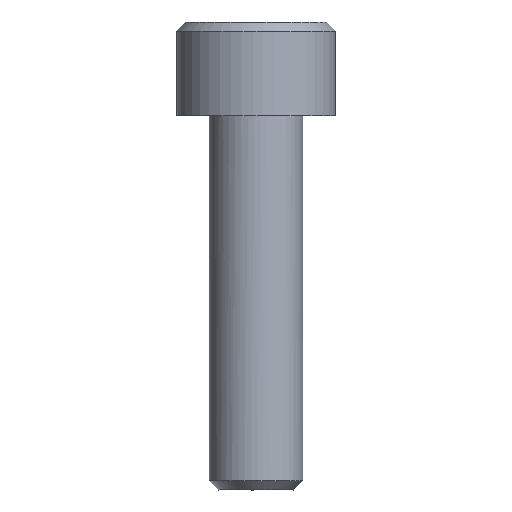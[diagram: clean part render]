
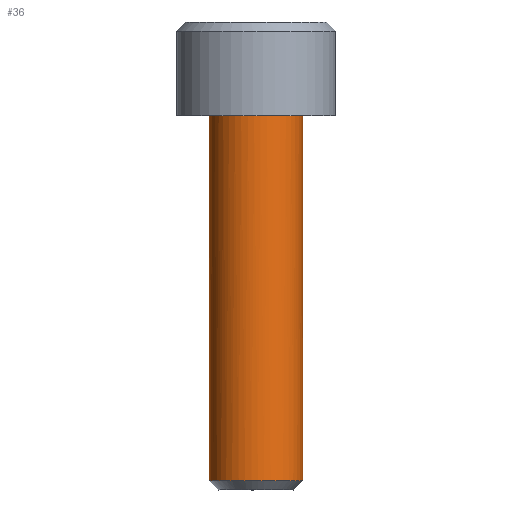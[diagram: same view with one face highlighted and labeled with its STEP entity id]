
A CAD part, left-side view. The second image highlights one B-rep face of the part: STEP entity #36.
In plain terms, the highlighted free-form (B-spline) face has degree [2, 1] with [9, 2] control points.
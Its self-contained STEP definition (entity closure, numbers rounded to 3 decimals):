
#36=ADVANCED_FACE('',(#61),#755,.T.);
#61=FACE_OUTER_BOUND('',#86,.T.);
#86=EDGE_LOOP('',(#119,#120,#121,#122));
#119=ORIENTED_EDGE('',*,*,#532,.T.);
#120=ORIENTED_EDGE('',*,*,#533,.T.);
#121=ORIENTED_EDGE('',*,*,#534,.T.);
#122=ORIENTED_EDGE('',*,*,#535,.T.);
#222=(
BOUNDED_CURVE()
B_SPLINE_CURVE(2,(#1121,#1122,#1123,#1124,#1125),.UNSPECIFIED.,.F.,.F.)
B_SPLINE_CURVE_WITH_KNOTS((3,2,3),(0.,3.927,7.854),
 .UNSPECIFIED.)
CURVE()
GEOMETRIC_REPRESENTATION_ITEM()
RATIONAL_B_SPLINE_CURVE((1.,0.707,1.,0.707,1.))
REPRESENTATION_ITEM('')
);
#223=(
BOUNDED_CURVE()
B_SPLINE_CURVE(2,(#1132,#1133,#1134,#1135,#1136),.UNSPECIFIED.,.F.,.F.)
B_SPLINE_CURVE_WITH_KNOTS((3,2,3),(-7.854,-3.927,0.),
 .UNSPECIFIED.)
CURVE()
GEOMETRIC_REPRESENTATION_ITEM()
RATIONAL_B_SPLINE_CURVE((1.,0.707,1.,0.707,1.))
REPRESENTATION_ITEM('')
);
#250=(
BOUNDED_CURVE()
B_SPLINE_CURVE(2,(#1425,#1426,#1427,#1428,#1429),.UNSPECIFIED.,.F.,.F.)
B_SPLINE_CURVE_WITH_KNOTS((3,2,3),(-7.854,-3.927,0.),
 .UNSPECIFIED.)
CURVE()
GEOMETRIC_REPRESENTATION_ITEM()
RATIONAL_B_SPLINE_CURVE((1.,0.707,1.,0.707,1.))
REPRESENTATION_ITEM('')
);
#263=PCURVE('',#755,#371);
#264=PCURVE('',#755,#372);
#265=PCURVE('',#755,#373);
#266=PCURVE('',#755,#374);
#270=PCURVE('',#756,#378);
#339=PCURVE('',#760,#447);
#341=PCURVE('',#760,#449);
#346=PCURVE('',#751,#454);
#371=DEFINITIONAL_REPRESENTATION('',(#592),#1481);
#372=DEFINITIONAL_REPRESENTATION('',(#593),#1481);
#373=DEFINITIONAL_REPRESENTATION('',(#595),#1481);
#374=DEFINITIONAL_REPRESENTATION('',(#596),#1481);
#378=DEFINITIONAL_REPRESENTATION('',(#602),#1481);
#447=DEFINITIONAL_REPRESENTATION('',(#687),#1481);
#449=DEFINITIONAL_REPRESENTATION('',(#689),#1481);
#454=DEFINITIONAL_REPRESENTATION('',(#250),#1481);
#478=SURFACE_CURVE('',#591,(#263,#339),.PCURVE_S1.);
#479=SURFACE_CURVE('',#222,(#264,#270),.PCURVE_S1.);
#480=SURFACE_CURVE('',#594,(#265,#341),.PCURVE_S1.);
#481=SURFACE_CURVE('',#223,(#266,#346),.PCURVE_S1.);
#532=EDGE_CURVE('',#711,#712,#478,.T.);
#533=EDGE_CURVE('',#712,#713,#479,.T.);
#534=EDGE_CURVE('',#713,#714,#480,.T.);
#535=EDGE_CURVE('',#714,#711,#481,.T.);
#591=B_SPLINE_CURVE_WITH_KNOTS('',1,(#1117,#1118),.UNSPECIFIED.,.F.,.F.,
(2,2),(-19.51,0.),.UNSPECIFIED.);
#592=B_SPLINE_CURVE_WITH_KNOTS('',1,(#1119,#1120),.UNSPECIFIED.,.F.,.F.,
(2,2),(-19.51,0.),.UNSPECIFIED.);
#593=B_SPLINE_CURVE_WITH_KNOTS('',1,(#1126,#1127),.UNSPECIFIED.,.F.,.F.,
(2,2),(0.,7.854),.UNSPECIFIED.);
#594=B_SPLINE_CURVE_WITH_KNOTS('',1,(#1128,#1129),.UNSPECIFIED.,.F.,.F.,
(2,2),(-19.51,0.),.UNSPECIFIED.);
#595=B_SPLINE_CURVE_WITH_KNOTS('',1,(#1130,#1131),.UNSPECIFIED.,.F.,.F.,
(2,2),(-19.51,0.),.UNSPECIFIED.);
#596=B_SPLINE_CURVE_WITH_KNOTS('',1,(#1137,#1138),.UNSPECIFIED.,.F.,.F.,
(2,2),(-7.854,0.),.UNSPECIFIED.);
#602=B_SPLINE_CURVE_WITH_KNOTS('',1,(#1154,#1155),.UNSPECIFIED.,.F.,.F.,
(2,2),(0.,7.854),.UNSPECIFIED.);
#687=B_SPLINE_CURVE_WITH_KNOTS('',1,(#1392,#1393),.UNSPECIFIED.,.F.,.F.,
(2,2),(-19.51,0.),.UNSPECIFIED.);
#689=B_SPLINE_CURVE_WITH_KNOTS('',1,(#1401,#1402),.UNSPECIFIED.,.F.,.F.,
(2,2),(-19.51,0.),.UNSPECIFIED.);
#711=VERTEX_POINT('',#1051);
#712=VERTEX_POINT('',#1052);
#713=VERTEX_POINT('',#1053);
#714=VERTEX_POINT('',#1054);
#751=PLANE('',#818);
#755=(
BOUNDED_SURFACE()
B_SPLINE_SURFACE(2,1,((#886,#887),(#888,#889),(#890,#891),(#892,#893),(#894,
#895),(#896,#897),(#898,#899),(#900,#901),(#902,#903)),.UNSPECIFIED.,.T.,
 .F.,.F.)
B_SPLINE_SURFACE_WITH_KNOTS((3,2,2,2,3),(2,2),(0.,1.571,3.142,
4.712,6.283),(0.,23.414),.UNSPECIFIED.)
GEOMETRIC_REPRESENTATION_ITEM()
RATIONAL_B_SPLINE_SURFACE(((1.,1.),(0.707,0.707),
(1.,1.),(0.707,0.707),(1.,1.),(0.707,
0.707),(1.,1.),(0.707,0.707),(1.,1.)))
REPRESENTATION_ITEM('')
SURFACE()
);
#756=(
BOUNDED_SURFACE()
B_SPLINE_SURFACE(2,1,((#904,#905),(#906,#907),(#908,#909),(#910,#911),(#912,
#913),(#914,#915),(#916,#917),(#918,#919),(#920,#921)),.UNSPECIFIED.,.T.,
 .F.,.F.)
B_SPLINE_SURFACE_WITH_KNOTS((3,2,2,2,3),(2,2),(0.,1.571,3.142,
4.712,6.283),(0.,3.891),.UNSPECIFIED.)
GEOMETRIC_REPRESENTATION_ITEM()
RATIONAL_B_SPLINE_SURFACE(((1.,1.),(0.707,0.707),
(1.,1.),(0.707,0.707),(1.,1.),(0.707,
0.707),(1.,1.),(0.707,0.707),(1.,1.)))
REPRESENTATION_ITEM('')
SURFACE()
);
#760=(
BOUNDED_SURFACE()
B_SPLINE_SURFACE(2,1,((#989,#990),(#991,#992),(#993,#994),(#995,#996),(#997,
#998),(#999,#1000),(#1001,#1002),(#1003,#1004),(#1005,#1006)),
 .UNSPECIFIED.,.T.,.F.,.F.)
B_SPLINE_SURFACE_WITH_KNOTS((3,2,2,2,3),(2,2),(0.,1.571,3.142,
4.712,6.283),(0.,23.414),.UNSPECIFIED.)
GEOMETRIC_REPRESENTATION_ITEM()
RATIONAL_B_SPLINE_SURFACE(((1.,1.),(0.707,0.707),
(1.,1.),(0.707,0.707),(1.,1.),(0.707,
0.707),(1.,1.),(0.707,0.707),(1.,1.)))
REPRESENTATION_ITEM('')
SURFACE()
);
#818=AXIS2_PLACEMENT_3D('',#1007,#840,$);
#840=DIRECTION('',(1.,0.,0.));
#886=CARTESIAN_POINT('',(-1.952,0.,2.5));
#887=CARTESIAN_POINT('',(21.462,0.,2.5));
#888=CARTESIAN_POINT('',(-1.952,-2.5,2.5));
#889=CARTESIAN_POINT('',(21.462,-2.5,2.5));
#890=CARTESIAN_POINT('',(-1.952,-2.5,0.));
#891=CARTESIAN_POINT('',(21.462,-2.5,0.));
#892=CARTESIAN_POINT('',(-1.952,-2.5,-2.5));
#893=CARTESIAN_POINT('',(21.462,-2.5,-2.5));
#894=CARTESIAN_POINT('',(-1.952,0.,-2.5));
#895=CARTESIAN_POINT('',(21.462,0.,-2.5));
#896=CARTESIAN_POINT('',(-1.952,2.5,-2.5));
#897=CARTESIAN_POINT('',(21.462,2.5,-2.5));
#898=CARTESIAN_POINT('',(-1.952,2.5,0.));
#899=CARTESIAN_POINT('',(21.462,2.5,0.));
#900=CARTESIAN_POINT('',(-1.952,2.5,2.5));
#901=CARTESIAN_POINT('',(21.462,2.5,2.5));
#902=CARTESIAN_POINT('',(-1.952,0.,2.5));
#903=CARTESIAN_POINT('',(21.462,0.,2.5));
#904=CARTESIAN_POINT('',(22.01,0.,0.));
#905=CARTESIAN_POINT('',(19.258,0.,2.751));
#906=CARTESIAN_POINT('',(22.01,0.,0.));
#907=CARTESIAN_POINT('',(19.258,2.751,2.751));
#908=CARTESIAN_POINT('',(22.01,0.,0.));
#909=CARTESIAN_POINT('',(19.258,2.751,0.));
#910=CARTESIAN_POINT('',(22.01,0.,0.));
#911=CARTESIAN_POINT('',(19.258,2.751,-2.751));
#912=CARTESIAN_POINT('',(22.01,0.,0.));
#913=CARTESIAN_POINT('',(19.258,0.,-2.751));
#914=CARTESIAN_POINT('',(22.01,0.,0.));
#915=CARTESIAN_POINT('',(19.258,-2.751,-2.751));
#916=CARTESIAN_POINT('',(22.01,0.,0.));
#917=CARTESIAN_POINT('',(19.258,-2.751,0.));
#918=CARTESIAN_POINT('',(22.01,0.,0.));
#919=CARTESIAN_POINT('',(19.258,-2.751,2.751));
#920=CARTESIAN_POINT('',(22.01,0.,0.));
#921=CARTESIAN_POINT('',(19.258,0.,2.751));
#989=CARTESIAN_POINT('',(-1.952,0.,-2.5));
#990=CARTESIAN_POINT('',(21.462,0.,-2.5));
#991=CARTESIAN_POINT('',(-1.952,2.5,-2.5));
#992=CARTESIAN_POINT('',(21.462,2.5,-2.5));
#993=CARTESIAN_POINT('',(-1.952,2.5,0.));
#994=CARTESIAN_POINT('',(21.462,2.5,0.));
#995=CARTESIAN_POINT('',(-1.952,2.5,2.5));
#996=CARTESIAN_POINT('',(21.462,2.5,2.5));
#997=CARTESIAN_POINT('',(-1.952,0.,2.5));
#998=CARTESIAN_POINT('',(21.462,0.,2.5));
#999=CARTESIAN_POINT('',(-1.952,-2.5,2.5));
#1000=CARTESIAN_POINT('',(21.462,-2.5,2.5));
#1001=CARTESIAN_POINT('',(-1.952,-2.5,0.));
#1002=CARTESIAN_POINT('',(21.462,-2.5,0.));
#1003=CARTESIAN_POINT('',(-1.952,-2.5,-2.5));
#1004=CARTESIAN_POINT('',(21.462,-2.5,-2.5));
#1005=CARTESIAN_POINT('',(-1.952,0.,-2.5));
#1006=CARTESIAN_POINT('',(21.462,0.,-2.5));
#1007=CARTESIAN_POINT('',(0.,5.101,5.101));
#1051=CARTESIAN_POINT('',(0.,2.5,0.));
#1052=CARTESIAN_POINT('',(19.51,2.5,0.));
#1053=CARTESIAN_POINT('',(19.51,-2.5,0.));
#1054=CARTESIAN_POINT('',(0.,-2.5,0.));
#1117=CARTESIAN_POINT('',(0.,2.5,0.));
#1118=CARTESIAN_POINT('',(19.51,2.5,0.));
#1119=CARTESIAN_POINT('',(4.712,1.952));
#1120=CARTESIAN_POINT('',(4.712,21.462));
#1121=CARTESIAN_POINT('',(19.51,2.5,0.));
#1122=CARTESIAN_POINT('',(19.51,2.5,-2.5));
#1123=CARTESIAN_POINT('',(19.51,0.,-2.5));
#1124=CARTESIAN_POINT('',(19.51,-2.5,-2.5));
#1125=CARTESIAN_POINT('',(19.51,-2.5,0.));
#1126=CARTESIAN_POINT('',(4.712,21.462));
#1127=CARTESIAN_POINT('',(1.571,21.462));
#1128=CARTESIAN_POINT('',(19.51,-2.5,0.));
#1129=CARTESIAN_POINT('',(0.,-2.5,0.));
#1130=CARTESIAN_POINT('',(1.571,21.462));
#1131=CARTESIAN_POINT('',(1.571,1.952));
#1132=CARTESIAN_POINT('',(0.,-2.5,0.));
#1133=CARTESIAN_POINT('',(0.,-2.5,-2.5));
#1134=CARTESIAN_POINT('',(0.,0.,-2.5));
#1135=CARTESIAN_POINT('',(0.,2.5,-2.5));
#1136=CARTESIAN_POINT('',(0.,2.5,0.));
#1137=CARTESIAN_POINT('',(1.571,1.952));
#1138=CARTESIAN_POINT('',(4.712,1.952));
#1154=CARTESIAN_POINT('',(1.571,3.536));
#1155=CARTESIAN_POINT('',(4.712,3.536));
#1392=CARTESIAN_POINT('',(1.571,1.952));
#1393=CARTESIAN_POINT('',(1.571,21.462));
#1401=CARTESIAN_POINT('',(4.712,21.462));
#1402=CARTESIAN_POINT('',(4.712,1.952));
#1425=CARTESIAN_POINT('',(5.875,0.));
#1426=CARTESIAN_POINT('',(5.875,2.5));
#1427=CARTESIAN_POINT('',(3.375,2.5));
#1428=CARTESIAN_POINT('',(0.875,2.5));
#1429=CARTESIAN_POINT('',(0.875,0.));
#1481=(
GEOMETRIC_REPRESENTATION_CONTEXT(2)
PARAMETRIC_REPRESENTATION_CONTEXT()
REPRESENTATION_CONTEXT('pspace','')
);
